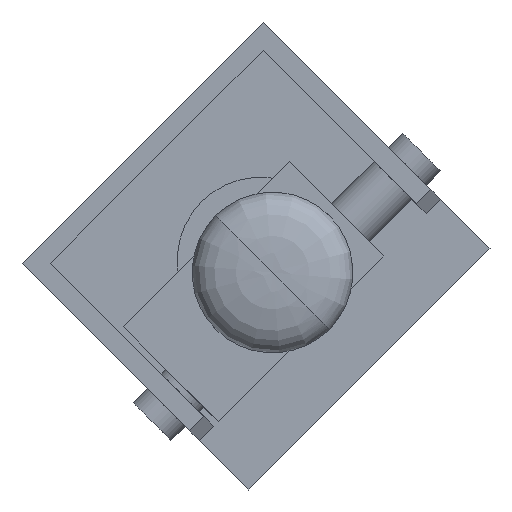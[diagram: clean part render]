
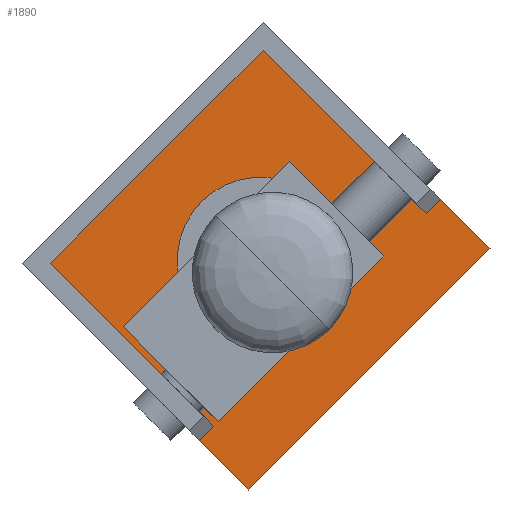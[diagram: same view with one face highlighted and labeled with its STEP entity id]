
A CAD part, front view. The second image highlights one B-rep face of the part: STEP entity #1890.
In plain terms, the highlighted planar face has unit normal (0, -1, 0).
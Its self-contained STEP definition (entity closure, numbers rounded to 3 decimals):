
#94=CARTESIAN_POINT('',(0.,-10.,0.));
#95=DIRECTION('',(0.,1.,0.));
#96=DIRECTION('',(-0.707,0.,-0.707));
#97=AXIS2_PLACEMENT_3D('',#94,#95,#96);
#102=CARTESIAN_POINT('',(0.,-10.,0.));
#103=DIRECTION('',(0.,1.,0.));
#104=DIRECTION('',(0.707,0.,0.707));
#105=AXIS2_PLACEMENT_3D('',#102,#103,#104);
#110=DIRECTION('',(-0.707,0.,-0.707));
#111=VECTOR('',#110,51.);
#112=CARTESIAN_POINT('',(34.295,-10.,1.768));
#113=LINE('',#112,#111);
#117=DIRECTION('',(0.707,0.,-0.707));
#118=VECTOR('',#117,34.5);
#119=CARTESIAN_POINT('',(-31.466,-10.,-0.354));
#120=LINE('',#119,#118);
#124=DIRECTION('',(-0.707,0.,-0.707));
#125=VECTOR('',#124,45.);
#126=CARTESIAN_POINT('',(0.354,-10.,31.466));
#127=LINE('',#126,#125);
#131=DIRECTION('',(-0.707,0.,0.707));
#132=VECTOR('',#131,34.5);
#133=CARTESIAN_POINT('',(24.749,-10.,7.071));
#134=LINE('',#133,#132);
#159=DIRECTION('',(-0.707,0.,0.707));
#160=VECTOR('',#159,10.5);
#161=CARTESIAN_POINT('',(34.295,-10.,1.768));
#162=LINE('',#161,#160);
#196=DIRECTION('',(0.707,0.,0.707));
#197=VECTOR('',#196,3.);
#198=CARTESIAN_POINT('',(-9.192,-10.,-26.87));
#199=LINE('',#198,#197);
#210=DIRECTION('',(0.707,0.,0.707));
#211=VECTOR('',#210,3.);
#212=CARTESIAN_POINT('',(24.749,-10.,7.071));
#213=LINE('',#212,#211);
#324=DIRECTION('',(-0.707,0.,0.707));
#325=VECTOR('',#324,10.5);
#326=CARTESIAN_POINT('',(-1.768,-10.,-34.295));
#327=LINE('',#326,#325);
#1662=CARTESIAN_POINT('',(-8.839,-10.,-8.839));
#1663=CARTESIAN_POINT('',(8.839,-10.,8.839));
#1664=VERTEX_POINT('',#1662);
#1665=VERTEX_POINT('',#1663);
#1666=CARTESIAN_POINT('',(0.354,-10.,31.466));
#1667=CARTESIAN_POINT('',(-31.466,-10.,-0.354));
#1668=VERTEX_POINT('',#1666);
#1669=VERTEX_POINT('',#1667);
#1678=CARTESIAN_POINT('',(-1.768,-10.,-34.295));
#1679=CARTESIAN_POINT('',(-9.192,-10.,-26.87));
#1680=VERTEX_POINT('',#1678);
#1681=VERTEX_POINT('',#1679);
#1682=CARTESIAN_POINT('',(34.295,-10.,1.768));
#1683=CARTESIAN_POINT('',(26.87,-10.,9.192));
#1684=VERTEX_POINT('',#1682);
#1685=VERTEX_POINT('',#1683);
#1686=CARTESIAN_POINT('',(24.749,-10.,7.071));
#1687=VERTEX_POINT('',#1686);
#1688=CARTESIAN_POINT('',(-7.071,-10.,-24.749));
#1689=VERTEX_POINT('',#1688);
#1863=CARTESIAN_POINT('',(0.,-10.,0.));
#1864=DIRECTION('',(0.,-1.,0.));
#1865=DIRECTION('',(-0.707,0.,-0.707));
#1866=AXIS2_PLACEMENT_3D('',#1863,#1864,#1865);
#1867=PLANE('',#1866);
#1869=ORIENTED_EDGE('',*,*,#1868,.T.);
#1871=ORIENTED_EDGE('',*,*,#1870,.T.);
#1873=ORIENTED_EDGE('',*,*,#1872,.T.);
#1875=ORIENTED_EDGE('',*,*,#1874,.F.);
#1877=ORIENTED_EDGE('',*,*,#1876,.F.);
#1879=ORIENTED_EDGE('',*,*,#1878,.F.);
#1881=ORIENTED_EDGE('',*,*,#1880,.T.);
#1883=ORIENTED_EDGE('',*,*,#1882,.F.);
#1884=EDGE_LOOP('',(#1869,#1871,#1873,#1875,#1877,#1879,#1881,#1883));
#1885=FACE_OUTER_BOUND('',#1884,.F.);
#1886=ORIENTED_EDGE('',*,*,#1843,.F.);
#1887=ORIENTED_EDGE('',*,*,#1857,.F.);
#1888=EDGE_LOOP('',(#1886,#1887));
#1889=FACE_BOUND('',#1888,.F.);
#98=CIRCLE('',#97,12.5);
#106=CIRCLE('',#105,12.5);
#1843=EDGE_CURVE('',#1664,#1665,#98,.T.);
#1857=EDGE_CURVE('',#1665,#1664,#106,.T.);
#1868=EDGE_CURVE('',#1684,#1680,#113,.T.);
#1870=EDGE_CURVE('',#1680,#1681,#327,.T.);
#1872=EDGE_CURVE('',#1681,#1689,#199,.T.);
#1874=EDGE_CURVE('',#1669,#1689,#120,.T.);
#1876=EDGE_CURVE('',#1668,#1669,#127,.T.);
#1878=EDGE_CURVE('',#1687,#1668,#134,.T.);
#1880=EDGE_CURVE('',#1687,#1685,#213,.T.);
#1882=EDGE_CURVE('',#1684,#1685,#162,.T.);
#1890=ADVANCED_FACE('',(#1885,#1889),#1867,.T.);
